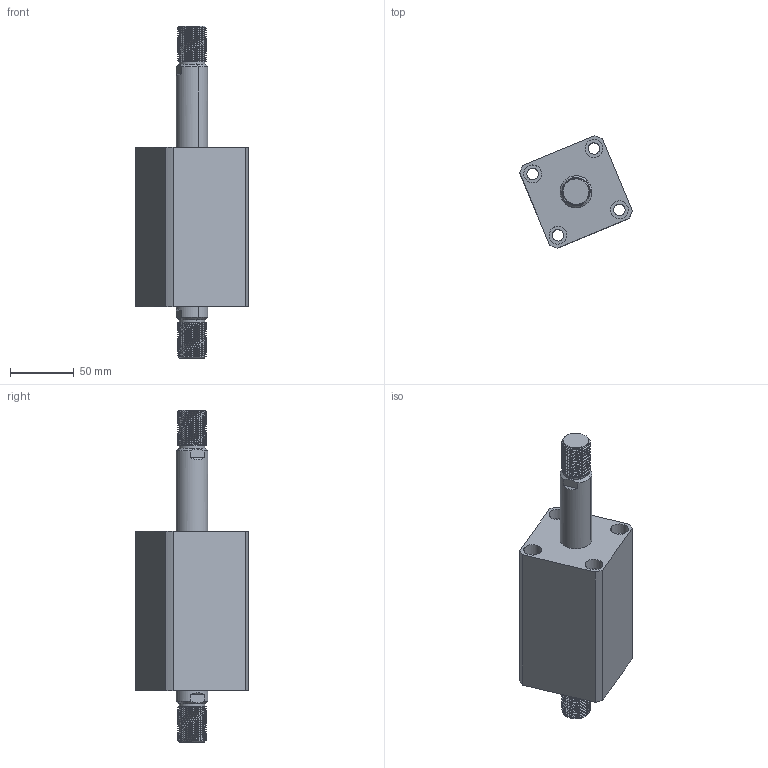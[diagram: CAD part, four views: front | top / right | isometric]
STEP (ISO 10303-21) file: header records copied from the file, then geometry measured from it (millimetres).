
FILE_DESCRIPTION (( 'STEP AP214' ), '1' );
FILE_NAME ('chtb-sw40x55w_asm.STEP', '2018-06-08T10:23:31', ( 'Windows' ), ( 'Microsoft' ), 'SwSTEP 2.0', 'SolidWorks 2015', '' );
FILE_SCHEMA (( 'AUTOMOTIVE_DESIGN' ));
Length unit declared in the file: millimetre
Products named in the file (4): CHTB-SD40QG; chtb-sw40x55w_asm; CHTB-SW40X55NHSG; CHTB-SW40X55NBT
Assembly tree (3 placements, depth 2):
  chtb-sw40x55w_asm
    CHTB-SD40QG
    CHTB-SW40X55NBT
    CHTB-SW40X55NHSG
Bounding box: 88.11 x 88.11 x 260 mm (x, y, z)
Volume: 580320.9 mm3; surface area: 109296.6 mm2
Topology: 3 solids, 3 shells, 254 faces, 680 edges, 452 vertices
Faces by surface type: cylinder 160, plane 46, bspline 18, cone 18, torus 12
Entity records: 17389 total; most frequent: CARTESIAN_POINT 11402, ORIENTED_EDGE 1348, DIRECTION 1094, EDGE_CURVE 674, VERTEX_POINT 452, AXIS2_PLACEMENT_3D 443, EDGE_LOOP 296, FACE_OUTER_BOUND 254
